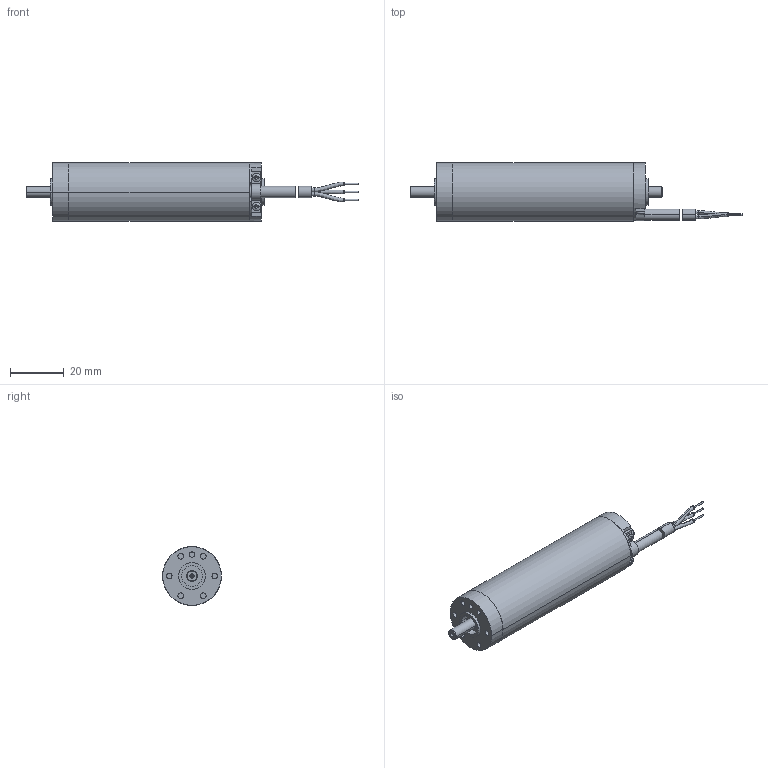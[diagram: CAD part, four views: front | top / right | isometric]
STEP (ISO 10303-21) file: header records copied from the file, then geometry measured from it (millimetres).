
FILE_DESCRIPTION((''),'2;1');
FILE_NAME('426449_EC22_80W_HD_B','2016-10-17T',('mmagpetk'),(''),'CREO PARAMETRIC BY PTC INC, 2016050','CREO PARAMETRIC BY PTC INC, 2016050','');
FILE_SCHEMA(('CONFIG_CONTROL_DESIGN'));
Length unit declared in the file: millimetre
Products named in the file (1): 426449_EC22_80W_HD_B
Bounding box: 124.1 x 22 x 22 mm (x, y, z)
Volume: 29865.7 mm3; surface area: 7416.6 mm2
Topology: 2 solids, 2 shells, 183 faces, 430 edges, 269 vertices
Faces by surface type: cylinder 83, plane 54, bspline 22, cone 20, sphere 4
Entity records: 8195 total; most frequent: CARTESIAN_POINT 1454, DIRECTION 918, ORIENTED_EDGE 840, PRESENTATION_STYLE_ASSIGNMENT 576, STYLED_ITEM 422, CURVE_STYLE 420, EDGE_CURVE 420, AXIS2_PLACEMENT_3D 359
